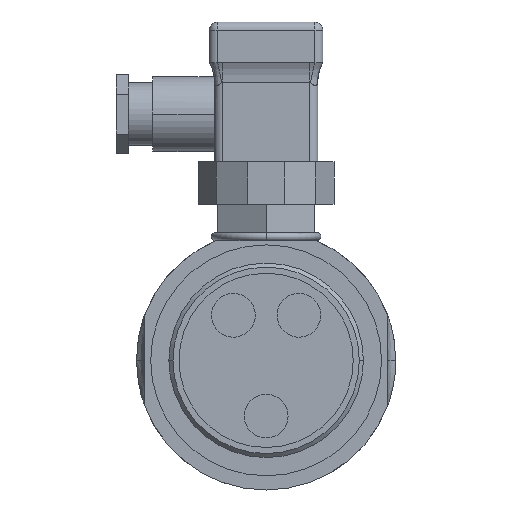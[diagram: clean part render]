
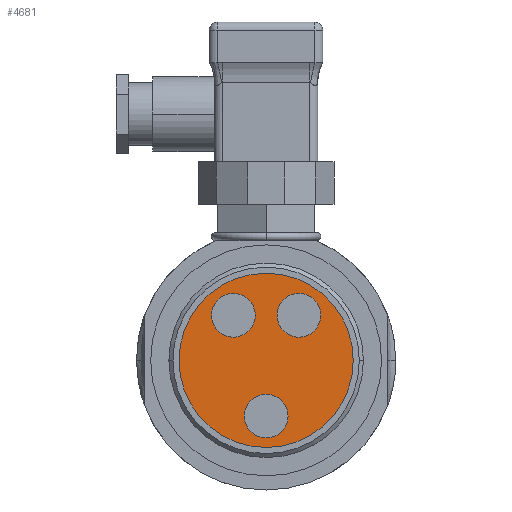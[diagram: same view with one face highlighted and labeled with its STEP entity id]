
A CAD part, front view. The second image highlights one B-rep face of the part: STEP entity #4681.
In plain terms, the highlighted planar face has unit normal (0, -1, 0).
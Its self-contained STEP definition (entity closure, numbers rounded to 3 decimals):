
#1735=CARTESIAN_POINT('',(0.,0.,0.));
#1736=DIRECTION('',(0.,1.,0.));
#1737=DIRECTION('',(1.,0.,0.));
#1738=AXIS2_PLACEMENT_3D('',#1735,#1736,#1737);
#1740=CARTESIAN_POINT('',(0.,0.,0.));
#1741=DIRECTION('',(0.,1.,0.));
#1742=DIRECTION('',(-1.,0.,0.));
#1743=AXIS2_PLACEMENT_3D('',#1740,#1741,#1742);
#1745=CARTESIAN_POINT('',(0.,0.,-13.75));
#1746=DIRECTION('',(0.,-1.,0.));
#1747=DIRECTION('',(1.,0.,0.));
#1748=AXIS2_PLACEMENT_3D('',#1745,#1746,#1747);
#1750=CARTESIAN_POINT('',(0.,0.,-13.75));
#1751=DIRECTION('',(0.,-1.,0.));
#1752=DIRECTION('',(-1.,0.,0.));
#1753=AXIS2_PLACEMENT_3D('',#1750,#1751,#1752);
#1755=CARTESIAN_POINT('',(-8.082,0.,11.124));
#1756=DIRECTION('',(0.,-1.,0.));
#1757=DIRECTION('',(-0.809,0.,-0.588));
#1758=AXIS2_PLACEMENT_3D('',#1755,#1756,#1757);
#1760=CARTESIAN_POINT('',(-8.082,0.,11.124));
#1761=DIRECTION('',(0.,-1.,0.));
#1762=DIRECTION('',(0.809,0.,0.588));
#1763=AXIS2_PLACEMENT_3D('',#1760,#1761,#1762);
#1765=CARTESIAN_POINT('',(8.082,0.,11.124));
#1766=DIRECTION('',(0.,-1.,0.));
#1767=DIRECTION('',(-0.809,0.,0.588));
#1768=AXIS2_PLACEMENT_3D('',#1765,#1766,#1767);
#1770=CARTESIAN_POINT('',(8.082,0.,11.124));
#1771=DIRECTION('',(0.,-1.,0.));
#1772=DIRECTION('',(0.809,0.,-0.588));
#1773=AXIS2_PLACEMENT_3D('',#1770,#1771,#1772);
#2095=CARTESIAN_POINT('',(21.5,0.,0.));
#2096=CARTESIAN_POINT('',(-21.5,0.,0.));
#2097=VERTEX_POINT('',#2095);
#2098=VERTEX_POINT('',#2096);
#2183=CARTESIAN_POINT('',(5.4,0.,-13.75));
#2184=CARTESIAN_POINT('',(-5.4,0.,-13.75));
#2185=VERTEX_POINT('',#2183);
#2186=VERTEX_POINT('',#2184);
#2191=CARTESIAN_POINT('',(-12.451,0.,7.95));
#2192=CARTESIAN_POINT('',(-3.713,0.,14.298));
#2193=VERTEX_POINT('',#2191);
#2194=VERTEX_POINT('',#2192);
#2199=CARTESIAN_POINT('',(3.713,0.,14.298));
#2200=CARTESIAN_POINT('',(12.451,0.,7.95));
#2201=VERTEX_POINT('',#2199);
#2202=VERTEX_POINT('',#2200);
#4654=CARTESIAN_POINT('',(0.,0.,0.));
#4655=DIRECTION('',(0.,1.,0.));
#4656=DIRECTION('',(1.,0.,0.));
#4657=AXIS2_PLACEMENT_3D('',#4654,#4655,#4656);
#4658=PLANE('',#4657);
#4659=ORIENTED_EDGE('',*,*,#4636,.T.);
#4660=ORIENTED_EDGE('',*,*,#4647,.T.);
#4661=EDGE_LOOP('',(#4659,#4660));
#4662=FACE_OUTER_BOUND('',#4661,.F.);
#4664=ORIENTED_EDGE('',*,*,#4663,.T.);
#4666=ORIENTED_EDGE('',*,*,#4665,.T.);
#4667=EDGE_LOOP('',(#4664,#4666));
#4668=FACE_BOUND('',#4667,.F.);
#4670=ORIENTED_EDGE('',*,*,#4669,.T.);
#4672=ORIENTED_EDGE('',*,*,#4671,.T.);
#4673=EDGE_LOOP('',(#4670,#4672));
#4674=FACE_BOUND('',#4673,.F.);
#4676=ORIENTED_EDGE('',*,*,#4675,.T.);
#4678=ORIENTED_EDGE('',*,*,#4677,.T.);
#4679=EDGE_LOOP('',(#4676,#4678));
#4680=FACE_BOUND('',#4679,.F.);
#1739=CIRCLE('',#1738,21.5);
#1744=CIRCLE('',#1743,21.5);
#1749=CIRCLE('',#1748,5.4);
#1754=CIRCLE('',#1753,5.4);
#1759=CIRCLE('',#1758,5.4);
#1764=CIRCLE('',#1763,5.4);
#1769=CIRCLE('',#1768,5.4);
#1774=CIRCLE('',#1773,5.4);
#4636=EDGE_CURVE('',#2097,#2098,#1739,.T.);
#4647=EDGE_CURVE('',#2098,#2097,#1744,.T.);
#4663=EDGE_CURVE('',#2185,#2186,#1749,.T.);
#4665=EDGE_CURVE('',#2186,#2185,#1754,.T.);
#4669=EDGE_CURVE('',#2193,#2194,#1759,.T.);
#4671=EDGE_CURVE('',#2194,#2193,#1764,.T.);
#4675=EDGE_CURVE('',#2201,#2202,#1769,.T.);
#4677=EDGE_CURVE('',#2202,#2201,#1774,.T.);
#4681=ADVANCED_FACE('',(#4662,#4668,#4674,#4680),#4658,.F.);
